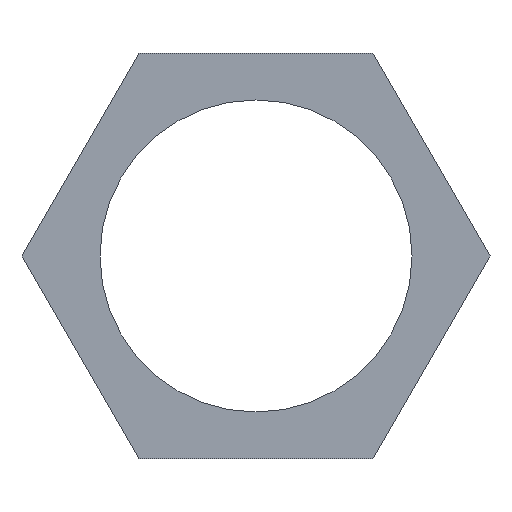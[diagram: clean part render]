
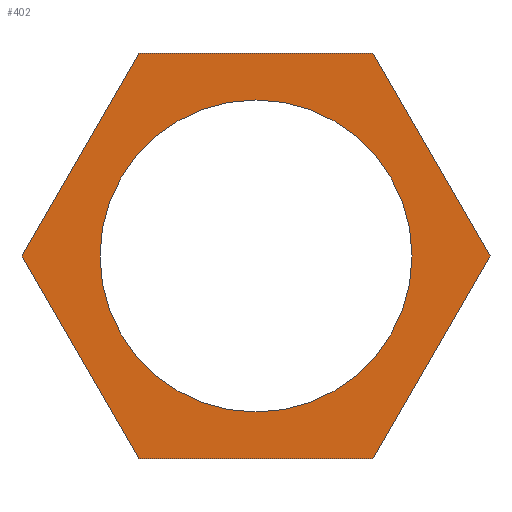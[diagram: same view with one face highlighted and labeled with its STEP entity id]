
A CAD part, front view. The second image highlights one B-rep face of the part: STEP entity #402.
In plain terms, the highlighted planar face has unit normal (0, -1, 0).
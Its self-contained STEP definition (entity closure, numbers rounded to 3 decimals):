
#24 = VERTEX_POINT('',#25);
#25 = CARTESIAN_POINT('',(9.375,29.,483.472));
#32 = PLANE('',#33);
#33 = AXIS2_PLACEMENT_3D('',#34,#35,#36);
#34 = CARTESIAN_POINT('',(9.375,36.,483.472));
#35 = DIRECTION('',(-0.866,-0.,-0.5));
#36 = DIRECTION('',(-0.5,0.,0.866));
#44 = PLANE('',#45);
#45 = AXIS2_PLACEMENT_3D('',#46,#47,#48);
#46 = CARTESIAN_POINT('',(4.688,36.,475.353));
#47 = DIRECTION('',(-0.866,0.,0.5));
#48 = DIRECTION('',(0.5,0.,0.866));
#56 = EDGE_CURVE('',#24,#57,#59,.T.);
#57 = VERTEX_POINT('',#58);
#58 = CARTESIAN_POINT('',(4.688,29.,491.591));
#59 = SURFACE_CURVE('',#60,(#64,#71),.PCURVE_S1.);
#60 = LINE('',#61,#62);
#61 = CARTESIAN_POINT('',(9.375,29.,483.472));
#62 = VECTOR('',#63,1.);
#63 = DIRECTION('',(-0.5,0.,0.866));
#64 = PCURVE('',#32,#65);
#65 = DEFINITIONAL_REPRESENTATION('',(#66),#70);
#66 = LINE('',#67,#68);
#67 = CARTESIAN_POINT('',(0.,-7.));
#68 = VECTOR('',#69,1.);
#69 = DIRECTION('',(1.,0.));
#70 = ( GEOMETRIC_REPRESENTATION_CONTEXT(2) 
PARAMETRIC_REPRESENTATION_CONTEXT() REPRESENTATION_CONTEXT('2D SPACE',''
  ) );
#71 = PCURVE('',#72,#77);
#72 = PLANE('',#73);
#73 = AXIS2_PLACEMENT_3D('',#74,#75,#76);
#74 = CARTESIAN_POINT('',(0.,29.,483.472));
#75 = DIRECTION('',(-0.,-1.,-0.));
#76 = DIRECTION('',(0.,0.,-1.));
#77 = DEFINITIONAL_REPRESENTATION('',(#78),#82);
#78 = LINE('',#79,#80);
#79 = CARTESIAN_POINT('',(0.,9.375));
#80 = VECTOR('',#81,1.);
#81 = DIRECTION('',(-0.866,-0.5));
#82 = ( GEOMETRIC_REPRESENTATION_CONTEXT(2) 
PARAMETRIC_REPRESENTATION_CONTEXT() REPRESENTATION_CONTEXT('2D SPACE',''
  ) );
#100 = PLANE('',#101);
#101 = AXIS2_PLACEMENT_3D('',#102,#103,#104);
#102 = CARTESIAN_POINT('',(4.688,36.,491.591));
#103 = DIRECTION('',(-0.,-0.,-1.));
#104 = DIRECTION('',(-1.,0.,0.));
#144 = VERTEX_POINT('',#145);
#145 = CARTESIAN_POINT('',(4.688,29.,475.353));
#159 = PLANE('',#160);
#160 = AXIS2_PLACEMENT_3D('',#161,#162,#163);
#161 = CARTESIAN_POINT('',(-4.688,36.,475.353));
#162 = DIRECTION('',(0.,0.,1.));
#163 = DIRECTION('',(1.,0.,0.));
#171 = EDGE_CURVE('',#144,#24,#172,.T.);
#172 = SURFACE_CURVE('',#173,(#177,#184),.PCURVE_S1.);
#173 = LINE('',#174,#175);
#174 = CARTESIAN_POINT('',(4.688,29.,475.353));
#175 = VECTOR('',#176,1.);
#176 = DIRECTION('',(0.5,0.,0.866));
#177 = PCURVE('',#44,#178);
#178 = DEFINITIONAL_REPRESENTATION('',(#179),#183);
#179 = LINE('',#180,#181);
#180 = CARTESIAN_POINT('',(0.,-7.));
#181 = VECTOR('',#182,1.);
#182 = DIRECTION('',(1.,0.));
#183 = ( GEOMETRIC_REPRESENTATION_CONTEXT(2) 
PARAMETRIC_REPRESENTATION_CONTEXT() REPRESENTATION_CONTEXT('2D SPACE',''
  ) );
#184 = PCURVE('',#72,#185);
#185 = DEFINITIONAL_REPRESENTATION('',(#186),#190);
#186 = LINE('',#187,#188);
#187 = CARTESIAN_POINT('',(8.119,4.688));
#188 = VECTOR('',#189,1.);
#189 = DIRECTION('',(-0.866,0.5));
#190 = ( GEOMETRIC_REPRESENTATION_CONTEXT(2) 
PARAMETRIC_REPRESENTATION_CONTEXT() REPRESENTATION_CONTEXT('2D SPACE',''
  ) );
#218 = EDGE_CURVE('',#57,#219,#221,.T.);
#219 = VERTEX_POINT('',#220);
#220 = CARTESIAN_POINT('',(-4.688,29.,491.591));
#221 = SURFACE_CURVE('',#222,(#226,#233),.PCURVE_S1.);
#222 = LINE('',#223,#224);
#223 = CARTESIAN_POINT('',(4.688,29.,491.591));
#224 = VECTOR('',#225,1.);
#225 = DIRECTION('',(-1.,0.,0.));
#226 = PCURVE('',#100,#227);
#227 = DEFINITIONAL_REPRESENTATION('',(#228),#232);
#228 = LINE('',#229,#230);
#229 = CARTESIAN_POINT('',(0.,-7.));
#230 = VECTOR('',#231,1.);
#231 = DIRECTION('',(1.,0.));
#232 = ( GEOMETRIC_REPRESENTATION_CONTEXT(2) 
PARAMETRIC_REPRESENTATION_CONTEXT() REPRESENTATION_CONTEXT('2D SPACE',''
  ) );
#233 = PCURVE('',#72,#234);
#234 = DEFINITIONAL_REPRESENTATION('',(#235),#239);
#235 = LINE('',#236,#237);
#236 = CARTESIAN_POINT('',(-8.119,4.688));
#237 = VECTOR('',#238,1.);
#238 = DIRECTION('',(0.,-1.));
#239 = ( GEOMETRIC_REPRESENTATION_CONTEXT(2) 
PARAMETRIC_REPRESENTATION_CONTEXT() REPRESENTATION_CONTEXT('2D SPACE',''
  ) );
#257 = PLANE('',#258);
#258 = AXIS2_PLACEMENT_3D('',#259,#260,#261);
#259 = CARTESIAN_POINT('',(-4.688,36.,491.591));
#260 = DIRECTION('',(0.866,0.,-0.5));
#261 = DIRECTION('',(-0.5,-0.,-0.866));
#334 = PLANE('',#335);
#335 = AXIS2_PLACEMENT_3D('',#336,#337,#338);
#336 = CARTESIAN_POINT('',(-9.375,36.,483.472));
#337 = DIRECTION('',(0.866,0.,0.5));
#338 = DIRECTION('',(0.5,0.,-0.866));
#391 = CYLINDRICAL_SURFACE('',#392,6.25);
#392 = AXIS2_PLACEMENT_3D('',#393,#394,#395);
#393 = CARTESIAN_POINT('',(0.,28.,483.472));
#394 = DIRECTION('',(0.,1.,0.));
#395 = DIRECTION('',(0.,-0.,1.));
#402 = ADVANCED_FACE('',(#403,#475),#72,.T.);
#403 = FACE_BOUND('',#404,.T.);
#404 = EDGE_LOOP('',(#405,#406,#407,#430,#453,#474));
#405 = ORIENTED_EDGE('',*,*,#56,.T.);
#406 = ORIENTED_EDGE('',*,*,#218,.T.);
#407 = ORIENTED_EDGE('',*,*,#408,.T.);
#408 = EDGE_CURVE('',#219,#409,#411,.T.);
#409 = VERTEX_POINT('',#410);
#410 = CARTESIAN_POINT('',(-9.375,29.,483.472));
#411 = SURFACE_CURVE('',#412,(#416,#423),.PCURVE_S1.);
#412 = LINE('',#413,#414);
#413 = CARTESIAN_POINT('',(-4.688,29.,491.591));
#414 = VECTOR('',#415,1.);
#415 = DIRECTION('',(-0.5,-0.,-0.866));
#416 = PCURVE('',#72,#417);
#417 = DEFINITIONAL_REPRESENTATION('',(#418),#422);
#418 = LINE('',#419,#420);
#419 = CARTESIAN_POINT('',(-8.119,-4.688));
#420 = VECTOR('',#421,1.);
#421 = DIRECTION('',(0.866,-0.5));
#422 = ( GEOMETRIC_REPRESENTATION_CONTEXT(2) 
PARAMETRIC_REPRESENTATION_CONTEXT() REPRESENTATION_CONTEXT('2D SPACE',''
  ) );
#423 = PCURVE('',#257,#424);
#424 = DEFINITIONAL_REPRESENTATION('',(#425),#429);
#425 = LINE('',#426,#427);
#426 = CARTESIAN_POINT('',(0.,-7.));
#427 = VECTOR('',#428,1.);
#428 = DIRECTION('',(1.,0.));
#429 = ( GEOMETRIC_REPRESENTATION_CONTEXT(2) 
PARAMETRIC_REPRESENTATION_CONTEXT() REPRESENTATION_CONTEXT('2D SPACE',''
  ) );
#430 = ORIENTED_EDGE('',*,*,#431,.T.);
#431 = EDGE_CURVE('',#409,#432,#434,.T.);
#432 = VERTEX_POINT('',#433);
#433 = CARTESIAN_POINT('',(-4.688,29.,475.353));
#434 = SURFACE_CURVE('',#435,(#439,#446),.PCURVE_S1.);
#435 = LINE('',#436,#437);
#436 = CARTESIAN_POINT('',(-9.375,29.,483.472));
#437 = VECTOR('',#438,1.);
#438 = DIRECTION('',(0.5,0.,-0.866));
#439 = PCURVE('',#72,#440);
#440 = DEFINITIONAL_REPRESENTATION('',(#441),#445);
#441 = LINE('',#442,#443);
#442 = CARTESIAN_POINT('',(0.,-9.375));
#443 = VECTOR('',#444,1.);
#444 = DIRECTION('',(0.866,0.5));
#445 = ( GEOMETRIC_REPRESENTATION_CONTEXT(2) 
PARAMETRIC_REPRESENTATION_CONTEXT() REPRESENTATION_CONTEXT('2D SPACE',''
  ) );
#446 = PCURVE('',#334,#447);
#447 = DEFINITIONAL_REPRESENTATION('',(#448),#452);
#448 = LINE('',#449,#450);
#449 = CARTESIAN_POINT('',(0.,-7.));
#450 = VECTOR('',#451,1.);
#451 = DIRECTION('',(1.,0.));
#452 = ( GEOMETRIC_REPRESENTATION_CONTEXT(2) 
PARAMETRIC_REPRESENTATION_CONTEXT() REPRESENTATION_CONTEXT('2D SPACE',''
  ) );
#453 = ORIENTED_EDGE('',*,*,#454,.T.);
#454 = EDGE_CURVE('',#432,#144,#455,.T.);
#455 = SURFACE_CURVE('',#456,(#460,#467),.PCURVE_S1.);
#456 = LINE('',#457,#458);
#457 = CARTESIAN_POINT('',(-4.688,29.,475.353));
#458 = VECTOR('',#459,1.);
#459 = DIRECTION('',(1.,0.,0.));
#460 = PCURVE('',#72,#461);
#461 = DEFINITIONAL_REPRESENTATION('',(#462),#466);
#462 = LINE('',#463,#464);
#463 = CARTESIAN_POINT('',(8.119,-4.688));
#464 = VECTOR('',#465,1.);
#465 = DIRECTION('',(0.,1.));
#466 = ( GEOMETRIC_REPRESENTATION_CONTEXT(2) 
PARAMETRIC_REPRESENTATION_CONTEXT() REPRESENTATION_CONTEXT('2D SPACE',''
  ) );
#467 = PCURVE('',#159,#468);
#468 = DEFINITIONAL_REPRESENTATION('',(#469),#473);
#469 = LINE('',#470,#471);
#470 = CARTESIAN_POINT('',(0.,-7.));
#471 = VECTOR('',#472,1.);
#472 = DIRECTION('',(1.,0.));
#473 = ( GEOMETRIC_REPRESENTATION_CONTEXT(2) 
PARAMETRIC_REPRESENTATION_CONTEXT() REPRESENTATION_CONTEXT('2D SPACE',''
  ) );
#474 = ORIENTED_EDGE('',*,*,#171,.T.);
#475 = FACE_BOUND('',#476,.T.);
#476 = EDGE_LOOP('',(#477));
#477 = ORIENTED_EDGE('',*,*,#478,.T.);
#478 = EDGE_CURVE('',#479,#479,#481,.T.);
#479 = VERTEX_POINT('',#480);
#480 = CARTESIAN_POINT('',(0.,29.,489.722));
#481 = SURFACE_CURVE('',#482,(#487,#498),.PCURVE_S1.);
#482 = CIRCLE('',#483,6.25);
#483 = AXIS2_PLACEMENT_3D('',#484,#485,#486);
#484 = CARTESIAN_POINT('',(0.,29.,483.472));
#485 = DIRECTION('',(0.,1.,0.));
#486 = DIRECTION('',(0.,-0.,1.));
#487 = PCURVE('',#72,#488);
#488 = DEFINITIONAL_REPRESENTATION('',(#489),#497);
#489 = ( BOUNDED_CURVE() B_SPLINE_CURVE(2,(#490,#491,#492,#493,#494,#495
,#496),.UNSPECIFIED.,.T.,.F.) B_SPLINE_CURVE_WITH_KNOTS((1,2,2,2,2,1),(
    -2.094,0.,2.094,4.189,6.283,
8.378),.UNSPECIFIED.) CURVE() GEOMETRIC_REPRESENTATION_ITEM() 
RATIONAL_B_SPLINE_CURVE((1.,0.5,1.,0.5,1.,0.5,1.)) REPRESENTATION_ITEM(
  '') );
#490 = CARTESIAN_POINT('',(-6.25,0.));
#491 = CARTESIAN_POINT('',(-6.25,10.825));
#492 = CARTESIAN_POINT('',(3.125,5.413));
#493 = CARTESIAN_POINT('',(12.5,0.));
#494 = CARTESIAN_POINT('',(3.125,-5.413));
#495 = CARTESIAN_POINT('',(-6.25,-10.825));
#496 = CARTESIAN_POINT('',(-6.25,0.));
#497 = ( GEOMETRIC_REPRESENTATION_CONTEXT(2) 
PARAMETRIC_REPRESENTATION_CONTEXT() REPRESENTATION_CONTEXT('2D SPACE',''
  ) );
#498 = PCURVE('',#391,#499);
#499 = DEFINITIONAL_REPRESENTATION('',(#500),#504);
#500 = LINE('',#501,#502);
#501 = CARTESIAN_POINT('',(0.,1.));
#502 = VECTOR('',#503,1.);
#503 = DIRECTION('',(1.,0.));
#504 = ( GEOMETRIC_REPRESENTATION_CONTEXT(2) 
PARAMETRIC_REPRESENTATION_CONTEXT() REPRESENTATION_CONTEXT('2D SPACE',''
  ) );
